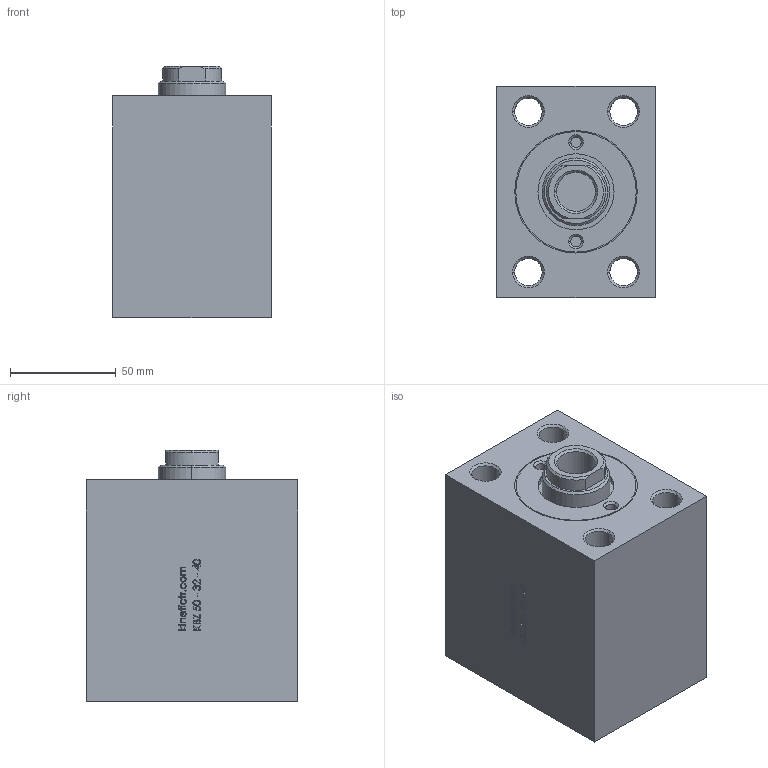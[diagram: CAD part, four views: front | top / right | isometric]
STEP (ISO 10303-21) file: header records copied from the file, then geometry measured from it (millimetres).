
FILE_DESCRIPTION (( 'STEP AP214' ), '1' );
FILE_NAME ('KBZ_02_50_32_40.STEP', '2018-12-29T15:42:08', ( '' ), ( '' ), 'SwSTEP 2.0', 'SolidWorks 2018', '' );
FILE_SCHEMA (( 'AUTOMOTIVE_DESIGN' ));
Length unit declared in the file: millimetre
Products named in the file (5): KBZ_50-32_ON_KAPAK; KBZ_50_PÝSTON; 32_M尳; 50-32-40-GOVDE; KBZ_02_50_32_40
Assembly tree (4 placements, depth 2):
  KBZ_02_50_32_40
    50-32-40-GOVDE
    32_M尳
    KBZ_50_PÝSTON
    KBZ_50-32_ON_KAPAK
Bounding box: 75 x 100 x 119 mm (x, y, z)
Volume: 659131 mm3; surface area: 119449.7 mm2
Topology: 4 solids, 4 shells, 481 faces, 1177 edges, 760 vertices
Faces by surface type: plane 211, bspline 124, cone 73, cylinder 73
Entity records: 21105 total; most frequent: CARTESIAN_POINT 10069, ORIENTED_EDGE 2354, DIRECTION 1864, EDGE_CURVE 1177, VERTEX_POINT 760, VECTOR 706, LINE 706, AXIS2_PLACEMENT_3D 579
